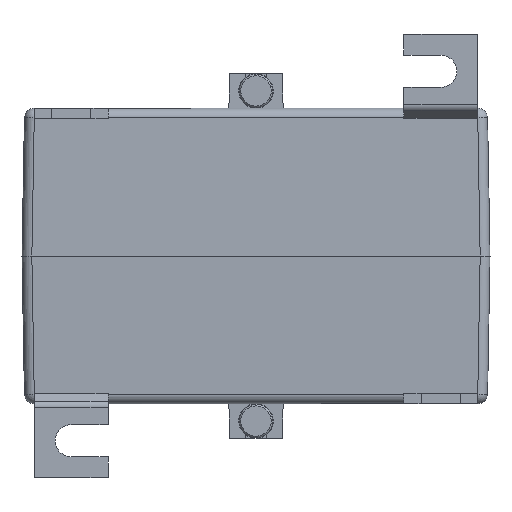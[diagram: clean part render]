
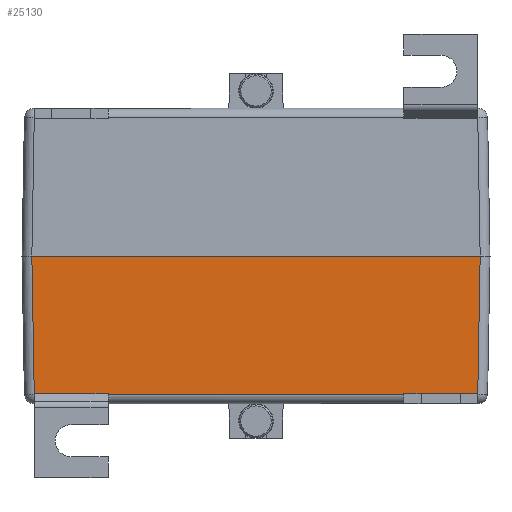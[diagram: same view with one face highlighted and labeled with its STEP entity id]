
A CAD part, front view. The second image highlights one B-rep face of the part: STEP entity #25130.
In plain terms, the highlighted planar face has unit normal (0, -1, -0.018).
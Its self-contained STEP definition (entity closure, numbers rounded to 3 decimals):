
#2561=FACE_OUTER_BOUND('',#3986,.T.);
#3986=EDGE_LOOP('',(#17896,#17897,#17898,#17899,#17900,#17901,#17902,#17903,
#17904,#17905,#17906,#17907));
#5939=LINE('',#34654,#8558);
#5955=LINE('',#34691,#8574);
#5979=LINE('',#34748,#8598);
#5996=LINE('',#34783,#8615);
#6008=LINE('',#34977,#8627);
#6268=LINE('',#36873,#8887);
#6269=LINE('',#36875,#8888);
#6270=LINE('',#36877,#8889);
#6271=LINE('',#36879,#8890);
#6272=LINE('',#36881,#8891);
#6273=LINE('',#36883,#8892);
#6274=LINE('',#36884,#8893);
#8558=VECTOR('',#28705,1000.);
#8574=VECTOR('',#28731,1000.);
#8598=VECTOR('',#28775,1000.);
#8615=VECTOR('',#28806,1000.);
#8627=VECTOR('',#28900,1000.);
#8887=VECTOR('',#29224,1000.);
#8888=VECTOR('',#29225,1000.);
#8889=VECTOR('',#29226,1000.);
#8890=VECTOR('',#29227,1000.);
#8891=VECTOR('',#29228,1000.);
#8892=VECTOR('',#29229,1000.);
#8893=VECTOR('',#29230,1000.);
#11150=VERTEX_POINT('',#34651);
#11151=VERTEX_POINT('',#34653);
#11167=VERTEX_POINT('',#34689);
#11189=VERTEX_POINT('',#34745);
#11190=VERTEX_POINT('',#34747);
#11246=VERTEX_POINT('',#34975);
#11586=VERTEX_POINT('',#36872);
#11587=VERTEX_POINT('',#36874);
#11588=VERTEX_POINT('',#36876);
#11589=VERTEX_POINT('',#36878);
#11590=VERTEX_POINT('',#36880);
#11591=VERTEX_POINT('',#36882);
#13553=EDGE_CURVE('',#11151,#11150,#5939,.T.);
#13571=EDGE_CURVE('',#11150,#11167,#5955,.T.);
#13597=EDGE_CURVE('',#11190,#11189,#5979,.T.);
#13616=EDGE_CURVE('',#11167,#11190,#5996,.T.);
#13665=EDGE_CURVE('',#11189,#11246,#6008,.T.);
#14025=EDGE_CURVE('',#11246,#11586,#6268,.T.);
#14026=EDGE_CURVE('',#11586,#11587,#6269,.T.);
#14027=EDGE_CURVE('',#11587,#11588,#6270,.T.);
#14028=EDGE_CURVE('',#11588,#11589,#6271,.T.);
#14029=EDGE_CURVE('',#11589,#11590,#6272,.T.);
#14030=EDGE_CURVE('',#11591,#11590,#6273,.T.);
#14031=EDGE_CURVE('',#11591,#11151,#6274,.T.);
#17896=ORIENTED_EDGE('',*,*,#13553,.T.);
#17897=ORIENTED_EDGE('',*,*,#13571,.T.);
#17898=ORIENTED_EDGE('',*,*,#13616,.T.);
#17899=ORIENTED_EDGE('',*,*,#13597,.T.);
#17900=ORIENTED_EDGE('',*,*,#13665,.T.);
#17901=ORIENTED_EDGE('',*,*,#14025,.T.);
#17902=ORIENTED_EDGE('',*,*,#14026,.T.);
#17903=ORIENTED_EDGE('',*,*,#14027,.T.);
#17904=ORIENTED_EDGE('',*,*,#14028,.T.);
#17905=ORIENTED_EDGE('',*,*,#14029,.T.);
#17906=ORIENTED_EDGE('',*,*,#14030,.F.);
#17907=ORIENTED_EDGE('',*,*,#14031,.T.);
#24175=PLANE('',#26689);
#25130=ADVANCED_FACE('',(#2561),#24175,.T.);
#26689=AXIS2_PLACEMENT_3D('',#36871,#29222,#29223);
#28705=DIRECTION('',(1.,0.,0.));
#28731=DIRECTION('',(0.009,-0.017,1.));
#28775=DIRECTION('',(0.009,0.017,-1.));
#28806=DIRECTION('',(1.,0.,0.));
#28900=DIRECTION('',(1.,0.,0.));
#29222=DIRECTION('center_axis',(0.,-1.,
-0.017));
#29223=DIRECTION('ref_axis',(0.,-0.017,1.));
#29224=DIRECTION('',(0.009,-0.017,1.));
#29225=DIRECTION('',(1.,0.,0.));
#29226=DIRECTION('',(0.009,0.017,-1.));
#29227=DIRECTION('',(1.,0.,0.));
#29228=DIRECTION('',(0.017,-0.017,1.));
#29229=DIRECTION('',(1.,0.,0.));
#29230=DIRECTION('',(0.017,0.017,-1.));
#34651=CARTESIAN_POINT('',(-44.983,-49.511,-28.035));
#34653=CARTESIAN_POINT('',(-45.011,-49.511,-28.035));
#34654=CARTESIAN_POINT('',(47.5,-49.511,-28.035));
#34689=CARTESIAN_POINT('',(-44.982,-49.511,-27.988));
#34691=CARTESIAN_POINT('',(-44.731,-50.014,0.805));
#34745=CARTESIAN_POINT('',(-30.017,-49.511,-28.035));
#34747=CARTESIAN_POINT('',(-30.018,-49.511,-27.988));
#34748=CARTESIAN_POINT('',(-30.256,-49.988,-0.678));
#34783=CARTESIAN_POINT('',(47.5,-49.511,-27.988));
#34975=CARTESIAN_POINT('',(30.017,-49.511,-28.035));
#34977=CARTESIAN_POINT('',(47.5,-49.511,-28.035));
#36871=CARTESIAN_POINT('Origin',(47.5,-50.,0.));
#36872=CARTESIAN_POINT('',(30.018,-49.511,-27.988));
#36873=CARTESIAN_POINT('',(30.263,-50.003,0.15));
#36874=CARTESIAN_POINT('',(44.982,-49.511,-27.988));
#36875=CARTESIAN_POINT('',(47.5,-49.511,-27.988));
#36876=CARTESIAN_POINT('',(44.983,-49.511,-28.035));
#36877=CARTESIAN_POINT('',(44.738,-50.,-0.024));
#36878=CARTESIAN_POINT('',(45.011,-49.511,-28.035));
#36879=CARTESIAN_POINT('',(47.5,-49.511,-28.035));
#36880=CARTESIAN_POINT('',(45.5,-50.,0.));
#36881=CARTESIAN_POINT('',(45.501,-50.001,0.035));
#36882=CARTESIAN_POINT('',(-45.5,-50.,0.));
#36883=CARTESIAN_POINT('',(-47.5,-50.,0.));
#36884=CARTESIAN_POINT('',(-45.472,-49.972,-1.622));
